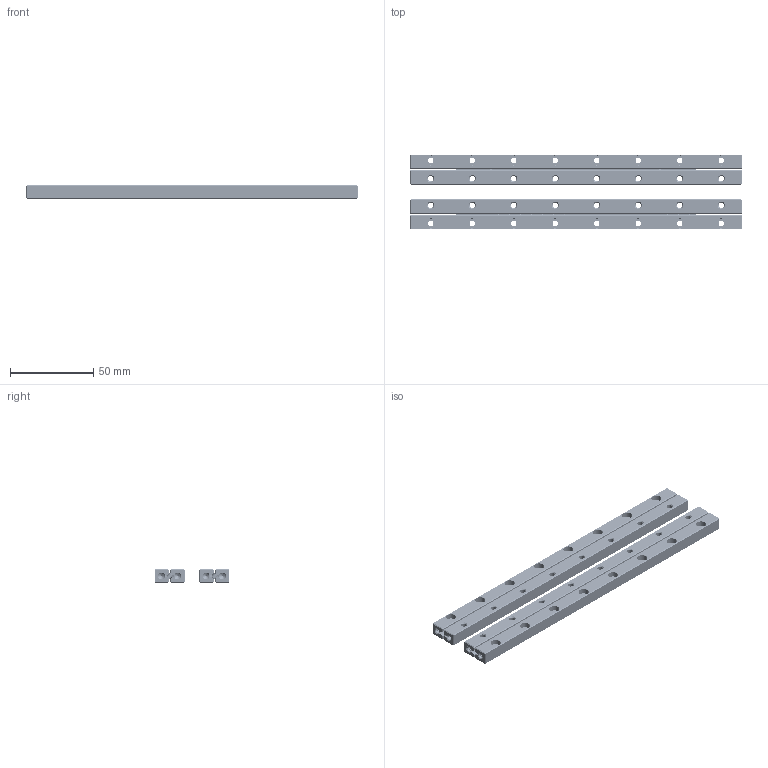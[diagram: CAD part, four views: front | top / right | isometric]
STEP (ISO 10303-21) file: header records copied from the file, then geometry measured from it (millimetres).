
FILE_DESCRIPTION(/* description */ (''),/* implementation_level */ '2;1');
FILE_NAME(/* name */ 'Set RSDE-3200x40KRE-ACC.stp',/* time_stamp */ '2018-12-19T13:15:26+01:00',/* author */ (''),/* organization */ (''),/* preprocessor_version */ 'ST-DEVELOPER v16.7',/* originating_system */ 'SIEMENS PLM Software NX 12.0',/* authorisation */ '');
FILE_SCHEMA (('AUTOMOTIVE_DESIGN { 1 0 10303 214 3 1 1 1 }'));
Products named in the file (1): rhn11EC67B6z205
Bounding box: 200 x 45 x 8 mm (x, y, z)
Volume: 48622.4 mm3; surface area: 41690.5 mm2
Topology: 104 solids, 104 shells, 5276 faces, 15090 edges, 9938 vertices
Faces by surface type: plane 2524, cylinder 1764, torus 816, cone 100, extrusion 72
Full cylindrical faces by diameter (mm): 0.45 x352, 1 x8, 2 x80, 2.6 x8, 3 x80, 3.2 x8, 3.3 x32, 6 x32
Entity records: 174293 total; most frequent: CARTESIAN_POINT 36365, DIRECTION 28986, ORIENTED_EDGE 27480, EDGE_CURVE 13740, AXIS2_PLACEMENT_3D 10565, VERTEX_POINT 9452, VECTOR 7856, LINE 7784
